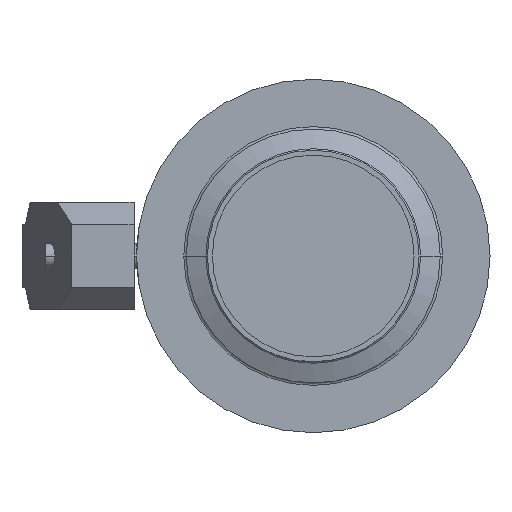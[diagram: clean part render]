
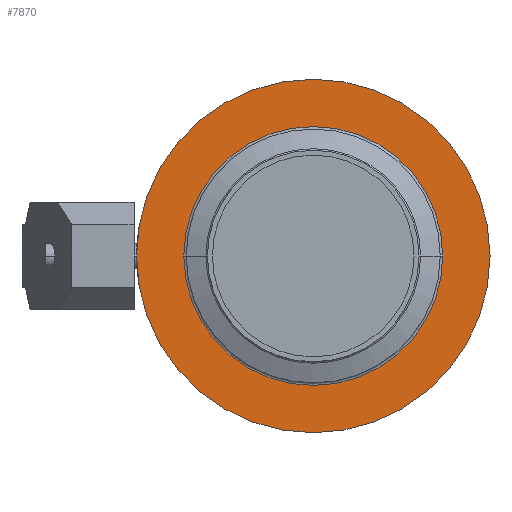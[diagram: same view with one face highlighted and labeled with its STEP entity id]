
A CAD part, left-side view. The second image highlights one B-rep face of the part: STEP entity #7870.
In plain terms, the highlighted planar face has unit normal (-1, 0, 0).
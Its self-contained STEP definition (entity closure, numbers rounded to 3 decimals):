
#7390=CARTESIAN_POINT('',(-290.595,-33.125,
0.));
#7400=VERTEX_POINT('',#7390);
#7430=CARTESIAN_POINT('',(-290.595,37.875,0.));
#7440=DIRECTION('',(-1.,0.,0.));
#7450=DIRECTION('',(0.,1.,0.));
#7460=AXIS2_PLACEMENT_3D('',#7430,#7440,#7450);
#7470=CIRCLE('',#7460,71.);
#7480=CARTESIAN_POINT('',(-290.595,108.875,0.));
#7490=VERTEX_POINT('',#7480);
#7500=EDGE_CURVE('',#7400,#7490,#7470,.T.);
#7620=CARTESIAN_POINT('',(-290.595,99.875,0.));
#7630=DIRECTION('',(1.,0.,0.));
#7640=DIRECTION('',(0.,-1.,0.));
#7650=AXIS2_PLACEMENT_3D('',#7620,#7630,#7640);
#7660=PLANE('',#7650);
#7670=ORIENTED_EDGE('',*,*,#7500,.T.);
#7680=EDGE_CURVE('',#7490,#7400,#7470,.T.);
#7690=ORIENTED_EDGE('',*,*,#7680,.T.);
#7700=EDGE_LOOP('',(#7690,#7670));
#7710=FACE_OUTER_BOUND('',#7700,.T.);
#7720=CARTESIAN_POINT('',(-290.595,37.875,0.));
#7730=DIRECTION('',(-1.,0.,0.));
#7740=DIRECTION('',(0.,1.,0.));
#7750=AXIS2_PLACEMENT_3D('',#7720,#7730,#7740);
#7760=CIRCLE('',#7750,52.);
#7770=CARTESIAN_POINT('',(-290.595,-14.125,0.));
#7780=VERTEX_POINT('',#7770);
#7790=CARTESIAN_POINT('',(-290.595,89.875,0.));
#7800=VERTEX_POINT('',#7790);
#7810=EDGE_CURVE('',#7780,#7800,#7760,.T.);
#7820=ORIENTED_EDGE('',*,*,#7810,.F.);
#7830=EDGE_CURVE('',#7800,#7780,#7760,.T.);
#7840=ORIENTED_EDGE('',*,*,#7830,.F.);
#7850=EDGE_LOOP('',(#7840,#7820));
#7860=FACE_BOUND('',#7850,.T.);
#7870=ADVANCED_FACE('',(#7710,#7860),#7660,.F.);
